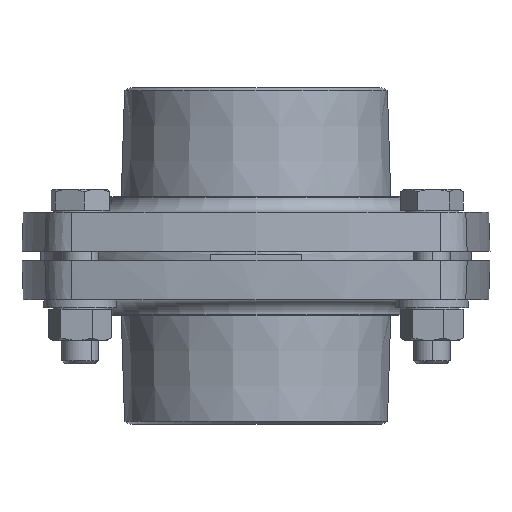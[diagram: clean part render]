
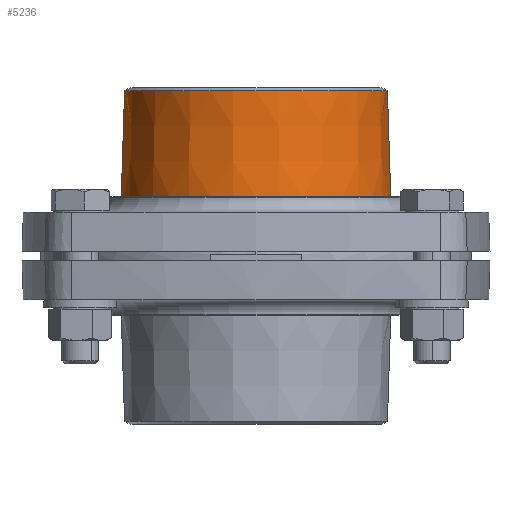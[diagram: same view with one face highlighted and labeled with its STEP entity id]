
A CAD part, front view. The second image highlights one B-rep face of the part: STEP entity #5236.
In plain terms, the highlighted conical face has half-angle 1.788 degrees and reference radius 44.421 mm.
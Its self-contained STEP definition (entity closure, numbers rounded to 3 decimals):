
#314 = DIRECTION ( 'NONE',  ( 0., 0., -1. ) ) ;
#343 = VECTOR ( 'NONE', #3038, 1000. ) ;
#386 = CARTESIAN_POINT ( 'NONE',  ( -40.357, -1.472, 13.293 ) ) ;
#764 = VECTOR ( 'NONE', #1335, 1000. ) ;
#883 = EDGE_CURVE ( 'NONE', #3740, #9014, #2776, .T. ) ;
#1312 = DIRECTION ( 'NONE',  ( 0., 0., -1. ) ) ;
#1335 = DIRECTION ( 'NONE',  ( -0.031, 0., -1. ) ) ;
#2211 = CARTESIAN_POINT ( 'NONE',  ( -40.357, -1.472, 13.293 ) ) ;
#2445 = CARTESIAN_POINT ( 'NONE',  ( 2.971, -1.472, 48.294 ) ) ;
#2692 = ORIENTED_EDGE ( 'NONE', *, *, #9954, .T. ) ;
#2776 = LINE ( 'NONE', #9366, #343 ) ;
#2924 = CIRCLE ( 'NONE', #9376, 43.328 ) ;
#3038 = DIRECTION ( 'NONE',  ( 0.031, 0., -1. ) ) ;
#3122 = DIRECTION ( 'NONE',  ( -1., 0., 0. ) ) ;
#3740 = VERTEX_POINT ( 'NONE', #2445 ) ;
#3811 = AXIS2_PLACEMENT_3D ( 'NONE', #2211, #8522, #3122 ) ;
#4252 = ORIENTED_EDGE ( 'NONE', *, *, #4739, .T. ) ;
#4739 = EDGE_CURVE ( 'NONE', #3740, #9839, #2924, .T. ) ;
#5187 = CONICAL_SURFACE ( 'NONE', #8110, 44.421, 0.031 ) ;
#5236 = ADVANCED_FACE ( 'NONE', ( #6309 ), #5187, .T. ) ;
#5293 = CARTESIAN_POINT ( 'NONE',  ( 4.064, -1.472, 13.293 ) ) ;
#5316 = LINE ( 'NONE', #6761, #764 ) ;
#5494 = VERTEX_POINT ( 'NONE', #7272 ) ;
#5592 = CIRCLE ( 'NONE', #3811, 44.421 ) ;
#5650 = EDGE_CURVE ( 'NONE', #9014, #5494, #5592, .T. ) ;
#5727 = CARTESIAN_POINT ( 'NONE',  ( -83.685, -1.472, 48.294 ) ) ;
#5763 = CARTESIAN_POINT ( 'NONE',  ( -40.357, -1.472, 48.294 ) ) ;
#6309 = FACE_OUTER_BOUND ( 'NONE', #8278, .T. ) ;
#6682 = DIRECTION ( 'NONE',  ( 1., 0., 0. ) ) ;
#6761 = CARTESIAN_POINT ( 'NONE',  ( -84.778, -1.472, 13.293 ) ) ;
#7272 = CARTESIAN_POINT ( 'NONE',  ( -84.778, -1.472, 13.293 ) ) ;
#8110 = AXIS2_PLACEMENT_3D ( 'NONE', #386, #1312, #11301 ) ;
#8278 = EDGE_LOOP ( 'NONE', ( #10616, #4252, #2692, #10490 ) ) ;
#8522 = DIRECTION ( 'NONE',  ( 0., 0., -1. ) ) ;
#9014 = VERTEX_POINT ( 'NONE', #5293 ) ;
#9366 = CARTESIAN_POINT ( 'NONE',  ( 4.064, -1.472, 13.293 ) ) ;
#9376 = AXIS2_PLACEMENT_3D ( 'NONE', #5763, #314, #6682 ) ;
#9839 = VERTEX_POINT ( 'NONE', #5727 ) ;
#9954 = EDGE_CURVE ( 'NONE', #9839, #5494, #5316, .T. ) ;
#10490 = ORIENTED_EDGE ( 'NONE', *, *, #5650, .F. ) ;
#10616 = ORIENTED_EDGE ( 'NONE', *, *, #883, .F. ) ;
#11301 = DIRECTION ( 'NONE',  ( -1., 0., 0. ) ) ;
